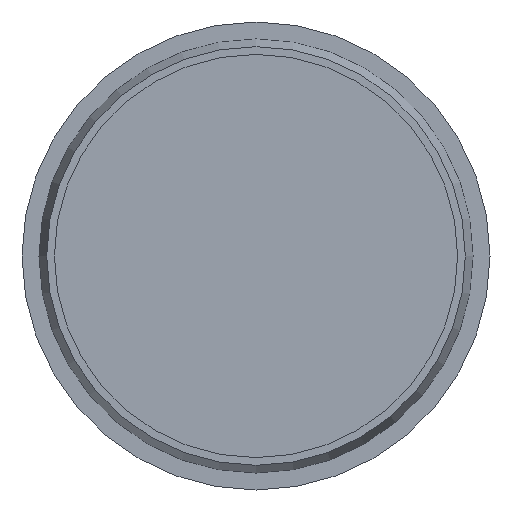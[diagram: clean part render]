
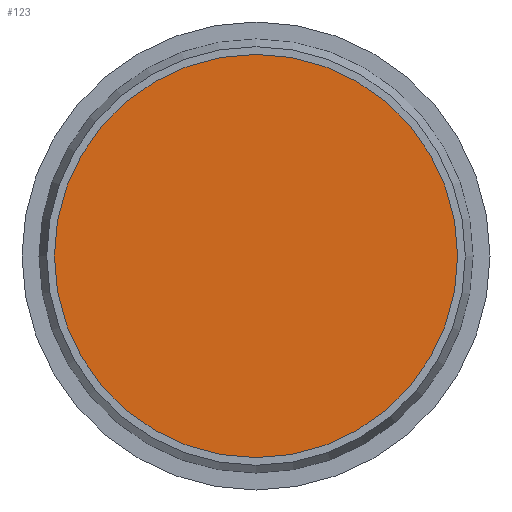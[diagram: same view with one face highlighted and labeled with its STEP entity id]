
A CAD part, front view. The second image highlights one B-rep face of the part: STEP entity #123.
In plain terms, the highlighted planar face has unit normal (0, -1, 0).
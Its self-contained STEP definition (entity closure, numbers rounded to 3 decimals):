
#24=PLANE('',#155);
#36=FACE_OUTER_BOUND('',#47,.T.);
#47=EDGE_LOOP('',(#112));
#62=CIRCLE('',#147,19.6);
#70=VERTEX_POINT('',#218);
#81=EDGE_CURVE('',#70,#70,#62,.T.);
#112=ORIENTED_EDGE('',*,*,#81,.T.);
#123=ADVANCED_FACE('',(#36),#24,.F.);
#147=AXIS2_PLACEMENT_3D('',#220,#180,#181);
#155=AXIS2_PLACEMENT_3D('',#233,#198,#199);
#180=DIRECTION('center_axis',(0.,-1.,0.));
#181=DIRECTION('ref_axis',(1.,0.,0.));
#198=DIRECTION('center_axis',(0.,1.,0.));
#199=DIRECTION('ref_axis',(-1.,0.,0.));
#218=CARTESIAN_POINT('',(-19.6,77.5,0.));
#220=CARTESIAN_POINT('Origin',(0.,77.5,0.));
#233=CARTESIAN_POINT('Origin',(0.,77.5,0.));
